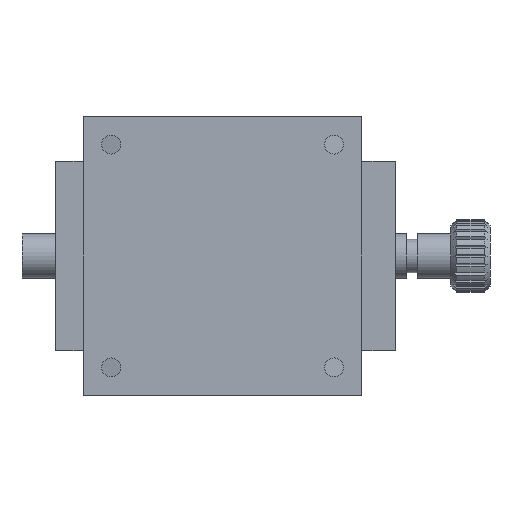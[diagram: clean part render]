
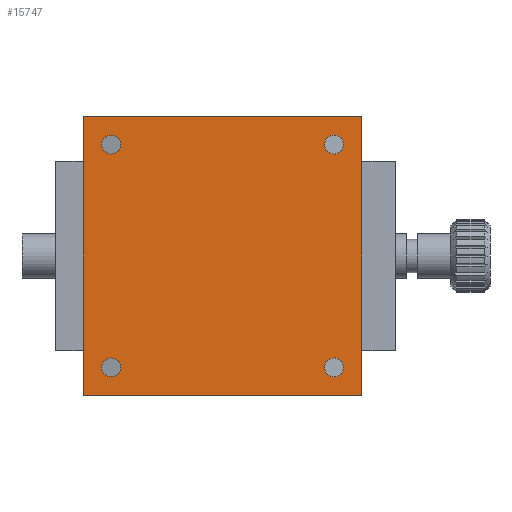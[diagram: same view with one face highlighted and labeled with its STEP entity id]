
A CAD part, front view. The second image highlights one B-rep face of the part: STEP entity #15747.
In plain terms, the highlighted planar face has unit normal (0, -1, 0).
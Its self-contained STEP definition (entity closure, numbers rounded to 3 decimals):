
#449 = VERTEX_POINT ( 'NONE', #7159 ) ;
#1210 = VECTOR ( 'NONE', #21897, 1000. ) ;
#1295 = AXIS2_PLACEMENT_3D ( 'NONE', #25632, #11548, #5391 ) ;
#1354 = DIRECTION ( 'NONE',  ( 0., 1., 0. ) ) ;
#1652 = EDGE_CURVE ( 'NONE', #13674, #20990, #18644, .T. ) ;
#2461 = LINE ( 'NONE', #3698, #1210 ) ;
#2558 = CIRCLE ( 'NONE', #12613, 1.7 ) ;
#2576 = CARTESIAN_POINT ( 'NONE',  ( 20., 0., -20. ) ) ;
#2838 = ORIENTED_EDGE ( 'NONE', *, *, #22100, .T. ) ;
#2864 = ORIENTED_EDGE ( 'NONE', *, *, #1652, .T. ) ;
#3286 = CARTESIAN_POINT ( 'NONE',  ( 25., 0., 25. ) ) ;
#3680 = ORIENTED_EDGE ( 'NONE', *, *, #22788, .F. ) ;
#3698 = CARTESIAN_POINT ( 'NONE',  ( -25., 0., 25. ) ) ;
#4849 = LINE ( 'NONE', #12558, #9595 ) ;
#4974 = LINE ( 'NONE', #23055, #25030 ) ;
#5129 = VERTEX_POINT ( 'NONE', #21847 ) ;
#5192 = CARTESIAN_POINT ( 'NONE',  ( -20., 0., 20. ) ) ;
#5320 = CIRCLE ( 'NONE', #22822, 1.7 ) ;
#5391 = DIRECTION ( 'NONE',  ( 0., 0., 1. ) ) ;
#5728 = DIRECTION ( 'NONE',  ( 0., 0., 1. ) ) ;
#5813 = VERTEX_POINT ( 'NONE', #16535 ) ;
#6163 = CARTESIAN_POINT ( 'NONE',  ( -20., 0., -21.7 ) ) ;
#6291 = ORIENTED_EDGE ( 'NONE', *, *, #15746, .T. ) ;
#6966 = CARTESIAN_POINT ( 'NONE',  ( -25., 0., -25. ) ) ;
#6970 = ORIENTED_EDGE ( 'NONE', *, *, #13800, .T. ) ;
#7159 = CARTESIAN_POINT ( 'NONE',  ( 20., 0., -18.3 ) ) ;
#7401 = DIRECTION ( 'NONE',  ( 0., 0., 1. ) ) ;
#7502 = CARTESIAN_POINT ( 'NONE',  ( 20., 0., -21.7 ) ) ;
#8001 = DIRECTION ( 'NONE',  ( 0., 1., 0. ) ) ;
#8456 = CIRCLE ( 'NONE', #18647, 1.7 ) ;
#9176 = DIRECTION ( 'NONE',  ( -1., 0., 0. ) ) ;
#9372 = EDGE_CURVE ( 'NONE', #20990, #13674, #23019, .T. ) ;
#9452 = FACE_BOUND ( 'NONE', #15147, .T. ) ;
#9595 = VECTOR ( 'NONE', #24383, 1000. ) ;
#10372 = DIRECTION ( 'NONE',  ( 0., 0., 1. ) ) ;
#10405 = FACE_OUTER_BOUND ( 'NONE', #13599, .T. ) ;
#10444 = ORIENTED_EDGE ( 'NONE', *, *, #20166, .T. ) ;
#10916 = EDGE_CURVE ( 'NONE', #5129, #11815, #2461, .T. ) ;
#11064 = LINE ( 'NONE', #14715, #23530 ) ;
#11534 = AXIS2_PLACEMENT_3D ( 'NONE', #5192, #15357, #7401 ) ;
#11548 = DIRECTION ( 'NONE',  ( 0., 1., 0. ) ) ;
#11815 = VERTEX_POINT ( 'NONE', #3286 ) ;
#11930 = VERTEX_POINT ( 'NONE', #19574 ) ;
#12366 = DIRECTION ( 'NONE',  ( 0., 0., 1. ) ) ;
#12496 = ORIENTED_EDGE ( 'NONE', *, *, #10916, .F. ) ;
#12558 = CARTESIAN_POINT ( 'NONE',  ( 25., 0., 25. ) ) ;
#12613 = AXIS2_PLACEMENT_3D ( 'NONE', #15454, #1354, #5728 ) ;
#12748 = DIRECTION ( 'NONE',  ( 0., 0., 1. ) ) ;
#12942 = VERTEX_POINT ( 'NONE', #19792 ) ;
#13599 = EDGE_LOOP ( 'NONE', ( #23183, #12496, #19601, #3680 ) ) ;
#13674 = VERTEX_POINT ( 'NONE', #20453 ) ;
#13782 = DIRECTION ( 'NONE',  ( 0., 1., 0. ) ) ;
#13800 = EDGE_CURVE ( 'NONE', #11930, #14558, #17615, .T. ) ;
#14353 = AXIS2_PLACEMENT_3D ( 'NONE', #17790, #13782, #21758 ) ;
#14368 = DIRECTION ( 'NONE',  ( 0., 1., 0. ) ) ;
#14558 = VERTEX_POINT ( 'NONE', #18142 ) ;
#14653 = VERTEX_POINT ( 'NONE', #6966 ) ;
#14715 = CARTESIAN_POINT ( 'NONE',  ( -25., 0., 25. ) ) ;
#14743 = CIRCLE ( 'NONE', #1295, 1.7 ) ;
#15147 = EDGE_LOOP ( 'NONE', ( #2838, #10444 ) ) ;
#15303 = DIRECTION ( 'NONE',  ( 0., -1., 0. ) ) ;
#15357 = DIRECTION ( 'NONE',  ( 0., 1., 0. ) ) ;
#15454 = CARTESIAN_POINT ( 'NONE',  ( -20., 0., -20. ) ) ;
#15746 = EDGE_CURVE ( 'NONE', #14558, #11930, #14743, .T. ) ;
#15747 = ADVANCED_FACE ( 'NONE', ( #25409, #20067, #21625, #9452, #10405 ), #25455, .T. ) ;
#16520 = DIRECTION ( 'NONE',  ( 0., 1., 0. ) ) ;
#16535 = CARTESIAN_POINT ( 'NONE',  ( 25., 0., -25. ) ) ;
#17615 = CIRCLE ( 'NONE', #11534, 1.7 ) ;
#17790 = CARTESIAN_POINT ( 'NONE',  ( 20., 0., -20. ) ) ;
#18053 = EDGE_CURVE ( 'NONE', #11815, #5813, #4849, .T. ) ;
#18142 = CARTESIAN_POINT ( 'NONE',  ( -20., 0., 21.7 ) ) ;
#18347 = CIRCLE ( 'NONE', #14353, 1.7 ) ;
#18443 = EDGE_LOOP ( 'NONE', ( #22624, #2864 ) ) ;
#18580 = DIRECTION ( 'NONE',  ( 0., 1., 0. ) ) ;
#18593 = EDGE_LOOP ( 'NONE', ( #6291, #6970 ) ) ;
#18644 = CIRCLE ( 'NONE', #22652, 1.7 ) ;
#18647 = AXIS2_PLACEMENT_3D ( 'NONE', #2576, #18580, #12748 ) ;
#18999 = DIRECTION ( 'NONE',  ( 0., 0., 1. ) ) ;
#19574 = CARTESIAN_POINT ( 'NONE',  ( -20., 0., 18.3 ) ) ;
#19601 = ORIENTED_EDGE ( 'NONE', *, *, #20616, .F. ) ;
#19656 = ORIENTED_EDGE ( 'NONE', *, *, #22608, .T. ) ;
#19792 = CARTESIAN_POINT ( 'NONE',  ( -20., 0., -18.3 ) ) ;
#19937 = AXIS2_PLACEMENT_3D ( 'NONE', #21733, #8001, #26024 ) ;
#20067 = FACE_BOUND ( 'NONE', #18443, .T. ) ;
#20166 = EDGE_CURVE ( 'NONE', #22925, #12942, #2558, .T. ) ;
#20305 = CARTESIAN_POINT ( 'NONE',  ( 20., 0., 21.7 ) ) ;
#20453 = CARTESIAN_POINT ( 'NONE',  ( 20., 0., 18.3 ) ) ;
#20488 = CARTESIAN_POINT ( 'NONE',  ( 20., 0., 20. ) ) ;
#20616 = EDGE_CURVE ( 'NONE', #14653, #5129, #11064, .T. ) ;
#20990 = VERTEX_POINT ( 'NONE', #20305 ) ;
#21079 = EDGE_LOOP ( 'NONE', ( #22062, #19656 ) ) ;
#21086 = AXIS2_PLACEMENT_3D ( 'NONE', #21576, #15303, #21413 ) ;
#21413 = DIRECTION ( 'NONE',  ( 0., 0., -1. ) ) ;
#21576 = CARTESIAN_POINT ( 'NONE',  ( 0., 0., 0. ) ) ;
#21625 = FACE_BOUND ( 'NONE', #18593, .T. ) ;
#21733 = CARTESIAN_POINT ( 'NONE',  ( 20., 0., 20. ) ) ;
#21758 = DIRECTION ( 'NONE',  ( 0., 0., 1. ) ) ;
#21847 = CARTESIAN_POINT ( 'NONE',  ( -25., 0., 25. ) ) ;
#21897 = DIRECTION ( 'NONE',  ( 1., 0., 0. ) ) ;
#22062 = ORIENTED_EDGE ( 'NONE', *, *, #25194, .T. ) ;
#22100 = EDGE_CURVE ( 'NONE', #12942, #22925, #5320, .T. ) ;
#22559 = CARTESIAN_POINT ( 'NONE',  ( -20., 0., -20. ) ) ;
#22608 = EDGE_CURVE ( 'NONE', #25092, #449, #8456, .T. ) ;
#22624 = ORIENTED_EDGE ( 'NONE', *, *, #9372, .T. ) ;
#22652 = AXIS2_PLACEMENT_3D ( 'NONE', #20488, #16520, #10372 ) ;
#22788 = EDGE_CURVE ( 'NONE', #5813, #14653, #4974, .T. ) ;
#22822 = AXIS2_PLACEMENT_3D ( 'NONE', #22559, #14368, #12366 ) ;
#22925 = VERTEX_POINT ( 'NONE', #6163 ) ;
#23019 = CIRCLE ( 'NONE', #19937, 1.7 ) ;
#23055 = CARTESIAN_POINT ( 'NONE',  ( -25., 0., -25. ) ) ;
#23183 = ORIENTED_EDGE ( 'NONE', *, *, #18053, .F. ) ;
#23530 = VECTOR ( 'NONE', #18999, 1000. ) ;
#24383 = DIRECTION ( 'NONE',  ( 0., 0., -1. ) ) ;
#25030 = VECTOR ( 'NONE', #9176, 1000. ) ;
#25092 = VERTEX_POINT ( 'NONE', #7502 ) ;
#25194 = EDGE_CURVE ( 'NONE', #449, #25092, #18347, .T. ) ;
#25409 = FACE_BOUND ( 'NONE', #21079, .T. ) ;
#25455 = PLANE ( 'NONE',  #21086 ) ;
#25632 = CARTESIAN_POINT ( 'NONE',  ( -20., 0., 20. ) ) ;
#26024 = DIRECTION ( 'NONE',  ( 0., 0., 1. ) ) ;
